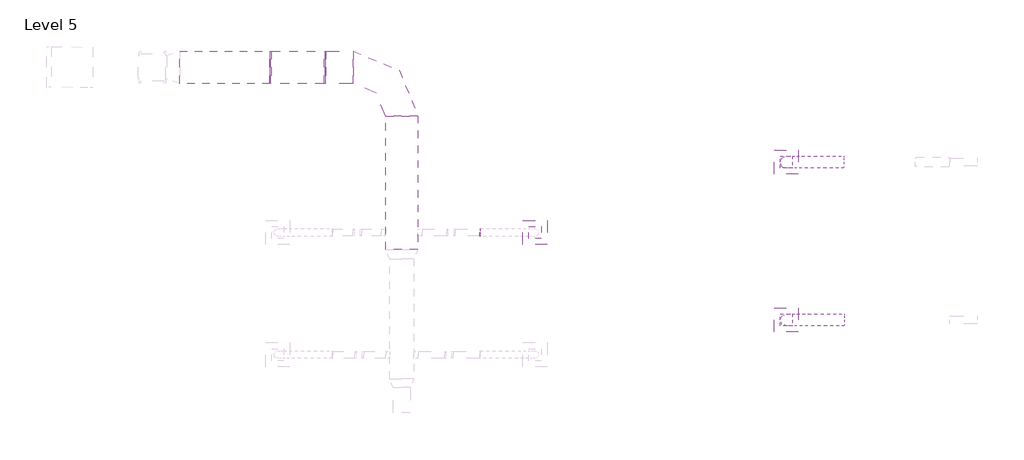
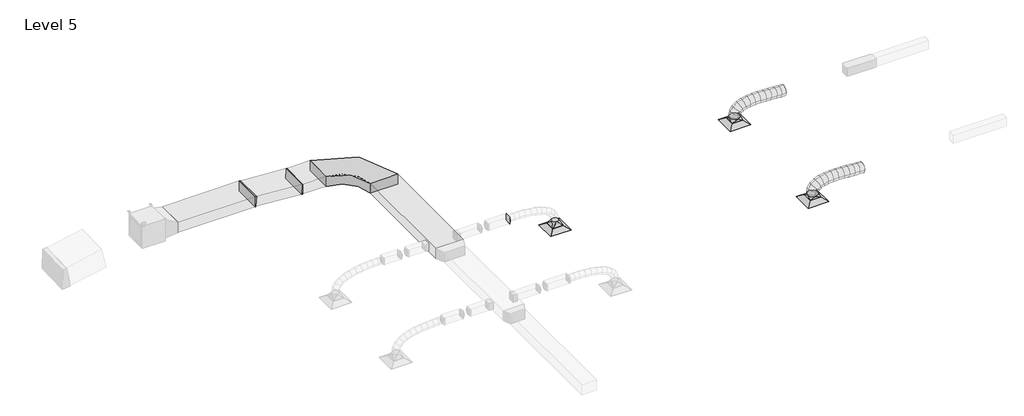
# One storey, part 5 of 7: 7 duct fittings, 6 duct segments, 3 air terminals.
"""IFC4 building model written with IfcOpenShell, lengths in millimetres."""

from ifc_helpers import new_model, si_unit, frame, origin, place, context, project, spatial, polyline, circle_curve, ellipse_curve, outline, extrude, transform, mapped, element, save
from ifc_brep_helpers import plane_surface, cylinder_surface, advanced_brep
from components import extract_grille_600_x_600_face_300_x_300_connection_2ef68f4f, supply_diffuser_24_x_24_face_16_x_16_connection_3cd54949, rectangular_elbow_radius_1_5_w_7a37d99a, rectangular_elbow_radius_1_5_w_4e0f4f0b, rectangular_to_round_transition_angle_45_degree_6939472c, rectangular_to_round_transition_angle_45_degree_460bb45a, rectangular_to_round_transition_angle_45_degree_641efff0

model = new_model("IFC4")

# Units and contexts
model_context = context("Model", 3, world=origin())
ifc_project = project(units=[si_unit("LENGTHUNIT", "METRE", prefix="MILLI")], contexts=[model_context])

# Site, building, storey
site = spatial("IfcSite", under=ifc_project)
building = spatial("IfcBuilding", under=site)
storey = spatial("IfcBuildingStorey", under=building, Name="Level 5", Elevation=19507.2)

# Air terminals
placement = place(None, origin())
extract_grille_600_x_600_face_300_x_300_connection_shape = extract_grille_600_x_600_face_300_x_300_connection_2ef68f4f(model_context)
element("IfcAirTerminal", 1, ObjectType="Extract Grille : 600 x 600 Face 300 x 300 Connection", at=placement, inside=storey, context=model_context, shape_type="MappedRepresentation", body=[
    mapped(extract_grille_600_x_600_face_300_x_300_connection_shape, transform((-7599.3643438, 10922.574671, 21507.2), x_axis=(-1.0, 0.0, 0.0), y_axis=(0.0, -1.0, 0.0), z_axis=(0.0, 0.0, 1.0))),
])
supply_diffuser_24_x_24_face_16_x_16_connection_shape = supply_diffuser_24_x_24_face_16_x_16_connection_3cd54949(model_context)
element("IfcAirTerminal", 2, ObjectType="Supply Diffuser : 24 x 24 Face 16 x 16 Connection", at=placement, inside=storey, context=model_context, shape_type="MappedRepresentation", body=[
    mapped(supply_diffuser_24_x_24_face_16_x_16_connection_shape, transform((-1396.0430817, 12661.2215712, 21507.2), x_axis=(-1.0, 0.0, 0.0), y_axis=(0.0, -1.0, 0.0), z_axis=(0.0, 0.0, 1.0))),
])
element("IfcAirTerminal", 3, ObjectType="Supply Diffuser : 24 x 24 Face 16 x 16 Connection", at=placement, inside=storey, context=model_context, shape_type="MappedRepresentation", body=[
    mapped(supply_diffuser_24_x_24_face_16_x_16_connection_shape, transform((-1396.0430817, 8760.722681, 21507.2), x_axis=(-1.0, 0.0, 0.0), y_axis=(0.0, -1.0, 0.0), z_axis=(0.0, 0.0, 1.0))),
])

# Duct fittings
rectangular_elbow_radius_1_5_w_shape = rectangular_elbow_radius_1_5_w_7a37d99a(model_context)
element("IfcDuctFitting", 4, ObjectType="Rectangular Elbow - Radius : 1.5 W", at=placement, inside=storey, context=model_context, shape_type="MappedRepresentation", body=[
    mapped(rectangular_elbow_radius_1_5_w_shape, transform((-10888.399049, 15002.6239015, 22250.4), x_axis=(0.0, 1.0, 0.0), y_axis=(-1.0, 0.0, 0.0), z_axis=(0.0, 0.0, 1.0))),
])
rectangular_elbow_radius_1_5_w_2_shape = rectangular_elbow_radius_1_5_w_4e0f4f0b(model_context)
element("IfcDuctFitting", 5, ObjectType="Rectangular Elbow - Radius : 1.5 W", at=placement, inside=storey, context=model_context, shape_type="MappedRepresentation", body=[
    mapped(rectangular_elbow_radius_1_5_w_2_shape, transform((-12781.1750622, 15002.6239015, 22250.4), x_axis=(-1.0, 0.0, 0.0), y_axis=(0.0, 0.0, 1.0), z_axis=(0.0, 1.0, 0.0))),
])
element("IfcDuctFitting", 6, ObjectType="Rectangular Elbow - Radius : 1.5 W", at=placement, inside=storey, context=model_context, shape_type="MappedRepresentation", body=[
    mapped(rectangular_elbow_radius_1_5_w_2_shape, transform((-14131.1748006, 15002.6239015, 22343.8), x_axis=(-0.9976152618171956, 0.0, 0.06902021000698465), y_axis=(-0.06902021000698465, 0.0, -0.9976152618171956), z_axis=(0.0, -1.0, 0.0))),
])
rectangular_to_round_transition_angle_45_degree_shape = rectangular_to_round_transition_angle_45_degree_6939472c(model_context)
element("IfcDuctFitting", 7, ObjectType="Rectangular to Round Transition - Angle : 45 Degree", at=placement, inside=storey, context=model_context, shape_type="MappedRepresentation", body=[
    mapped(rectangular_to_round_transition_angle_45_degree_shape, transform((-7599.3643438, 10922.574671, 21607.2), x_axis=(0.0, 0.0, 1.0), y_axis=(-1.0, 0.0, 0.0), z_axis=(0.0, -1.0, 0.0))),
])
rectangular_to_round_transition_angle_45_degree_2_shape = rectangular_to_round_transition_angle_45_degree_460bb45a(model_context)
element("IfcDuctFitting", 8, ObjectType="Rectangular to Round Transition - Angle : 45 Degree", at=placement, inside=storey, context=model_context, shape_type="MappedRepresentation", body=[
    mapped(rectangular_to_round_transition_angle_45_degree_2_shape, transform((-8963.51205, 10922.574671, 22250.4), x_axis=(1.0, 0.0, 0.0), y_axis=(0.0, 1.0, 0.0), z_axis=(0.0, 0.0, 1.0))),
])
rectangular_to_round_transition_angle_45_degree_3_shape = rectangular_to_round_transition_angle_45_degree_641efff0(model_context)
element("IfcDuctFitting", 9, ObjectType="Rectangular to Round Transition - Angle : 45 Degree", at=placement, inside=storey, context=model_context, shape_type="MappedRepresentation", body=[
    mapped(rectangular_to_round_transition_angle_45_degree_3_shape, transform((-1396.0430817, 8760.722681, 21608.8), x_axis=(0.0, 0.0, 1.0), y_axis=(-1.0, 0.0, 0.0), z_axis=(0.0, -1.0, 0.0))),
])
element("IfcDuctFitting", 10, ObjectType="Rectangular to Round Transition - Angle : 45 Degree", at=placement, inside=storey, context=model_context, shape_type="MappedRepresentation", body=[
    mapped(rectangular_to_round_transition_angle_45_degree_3_shape, transform((-1396.0430817, 12661.2215712, 21608.8), x_axis=(0.0, 0.0, 1.0), y_axis=(-1.0, 0.0, 0.0), z_axis=(0.0, -1.0, 0.0))),
])

# Duct segments
element("IfcDuctSegment", 11, ObjectType="Flex - Round", at=placement, inside=storey, context=model_context, shape_type="AdvancedBrep", body=[
    advanced_brep(
    [(-1246.0430817, 8760.722681, 21683.8), (-1396.0430817, 8610.722681, 21683.8), (-1546.0430817, 8760.722681, 21683.8), (-1396.0430817, 8910.722681, 21683.8), (-1246.0430817, 8760.722681, 21692.6365588), (-1396.0430817, 8610.722681, 21709.5376656), (-1546.0430817, 8760.722681, 21726.4387725), (-1396.0430817, 8910.722681, 21709.5376656), (-1236.7198679, 8760.722681, 21733.4838165), (-1377.1233228, 8610.722681, 21792.4297111), (-1517.5267778, 8760.722681, 21851.3756057), (-1377.1233228, 8910.722681, 21792.4297111), (-1212.3989623, 8760.722681, 21771.3803227), (-1323.6170991, 8610.722681, 21875.8023854), (-1434.835236, 8760.722681, 21980.224448), (-1323.6170991, 8910.722681, 21875.8023854), (-1167.6260807, 8760.722681, 21804.271018), (-1240.4039903, 8610.722681, 21936.9317322), (-1313.1818999, 8760.722681, 22069.5924464), (-1240.4039903, 8910.722681, 21936.9317322), (-1090.1780726, 8760.722681, 21834.3065428), (-1132.363576, 8610.722681, 21978.8314611), (-1174.5490794, 8760.722681, 22123.3563793), (-1132.363576, 8910.722681, 21978.8314611), (-983.034465, 8760.722681, 21855.8074191), (-1004.3754358, 8610.722681, 22004.5152814), (-1025.7164065, 8760.722681, 22153.2231437), (-1004.3754358, 8910.722681, 22004.5152814), (-853.6680936, 8760.722681, 21867.0945991), (-861.3191493, 8610.722681, 22016.9969027), (-868.970205, 8760.722681, 22166.8992063), (-861.3191493, 8910.722681, 22016.9969027), (-709.2608045, 8760.722681, 21869.2554868), (-708.0742963, 8610.722681, 22019.2900344), (-706.887788, 8760.722681, 22169.3245819), (-708.0742963, 8910.722681, 22019.2900344), (-556.088619, 8760.722681, 21864.5395319), (-549.5204562, 8610.722681, 22014.4083859), (-542.9522934, 8760.722681, 22164.2772399), (-549.5204562, 8910.722681, 22014.4083859), (-399.7312604, 8760.722681, 21855.6461692), (-390.5372088, 8610.722681, 22005.3656667), (-381.3431572, 8760.722681, 22155.0851642), (-390.5372088, 8910.722681, 22005.3656667), (-245.2314719, 8760.722681, 21845.4582837), (-236.0041337, 8610.722681, 21995.1755863), (-226.7767954, 8760.722681, 22144.8928889), (-236.0041337, 8910.722681, 21995.1755863), (-97.1266751, 8760.722681, 21836.9682255), (-90.8008104, 8610.722681, 21986.8518541), (-84.4749457, 8760.722681, 22136.7354826), (-90.8008104, 8910.722681, 21986.8518541), (34.2181612, 8760.722681, 21833.4081343), (36.2500902, 8610.722681, 21983.4081497), (38.2820191, 8760.722681, 22133.4081651), (36.2500902, 8910.722681, 21983.4081497), (40.194315, 8760.722681, 21833.4081795), (40.1931813, 8610.722681, 21983.4081795), (40.1920475, 8760.722681, 22133.4081795), (40.1931813, 8910.722681, 21983.4081795)],
    [
        (0, 1, circle_curve(frame((-1396.0430817, 8760.722681, 21683.8), z_axis=(0.0, 0.0, -1.0), x_axis=(1.0, 0.0, 0.0)), 150.0)),
        (1, 2, circle_curve(frame((-1396.0430817, 8760.722681, 21683.8), z_axis=(0.0, 0.0, -1.0), x_axis=(1.0, 0.0, 0.0)), 150.0)),
        (2, 3, circle_curve(frame((-1396.0430817, 8760.722681, 21683.8), z_axis=(0.0, 0.0, -1.0), x_axis=(1.0, 0.0, 0.0)), 150.0)),
        (3, 0, circle_curve(frame((-1396.0430817, 8760.722681, 21683.8), z_axis=(0.0, 0.0, -1.0), x_axis=(1.0, 0.0, 0.0)), 150.0)),
        (0, 4),
        (4, 5, ellipse_curve(frame((-1396.0430817, 8760.722681, 21709.5376656), z_axis=(-0.11196556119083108, 0.0, -0.9937120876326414), x_axis=(0.9937120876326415, 0.0, -0.11196556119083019)), 150.9491551, 150.0)),
        (5, 1),
        (5, 6, ellipse_curve(frame((-1396.0430817, 8760.722681, 21709.5376656), z_axis=(-0.11196556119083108, 0.0, -0.9937120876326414), x_axis=(0.9937120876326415, 0.0, -0.11196556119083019)), 150.9491551, 150.0)),
        (6, 2),
        (6, 7, ellipse_curve(frame((-1396.0430817, 8760.722681, 21709.5376656), z_axis=(-0.11196556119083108, 0.0, -0.9937120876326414), x_axis=(0.9937120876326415, 0.0, -0.11196556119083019)), 150.9491551, 150.0)),
        (7, 3),
        (7, 4, ellipse_curve(frame((-1396.0430817, 8760.722681, 21709.5376656), z_axis=(-0.11196556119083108, 0.0, -0.9937120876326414), x_axis=(0.9937120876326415, 0.0, -0.11196556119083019)), 150.9491551, 150.0)),
        (4, 8),
        (8, 9, ellipse_curve(frame((-1377.1233228, 8760.722681, 21792.4297111), z_axis=(-0.38710098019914, 0.0, -0.92203732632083), x_axis=(0.9220373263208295, 0.0, -0.3871009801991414)), 152.2752398, 150.0)),
        (9, 5),
        (9, 10, ellipse_curve(frame((-1377.1233228, 8760.722681, 21792.4297111), z_axis=(-0.38710098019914, 0.0, -0.92203732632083), x_axis=(0.9220373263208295, 0.0, -0.3871009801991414)), 152.2752398, 150.0)),
        (10, 6),
        (10, 11, ellipse_curve(frame((-1377.1233228, 8760.722681, 21792.4297111), z_axis=(-0.38710098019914, 0.0, -0.92203732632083), x_axis=(0.9220373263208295, 0.0, -0.3871009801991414)), 152.2752398, 150.0)),
        (11, 7),
        (11, 8, ellipse_curve(frame((-1377.1233228, 8760.722681, 21792.4297111), z_axis=(-0.38710098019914, 0.0, -0.92203732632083), x_axis=(0.9220373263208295, 0.0, -0.3871009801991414)), 152.2752398, 150.0)),
        (8, 12),
        (12, 13, ellipse_curve(frame((-1323.6170991, 8760.722681, 21875.8023854), z_axis=(-0.6844818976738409, 0.0, -0.7290298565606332), x_axis=(0.7290298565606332, 0.0, -0.684481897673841)), 152.5563539, 150.0)),
        (13, 9),
        (13, 14, ellipse_curve(frame((-1323.6170991, 8760.722681, 21875.8023854), z_axis=(-0.6844818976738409, 0.0, -0.7290298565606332), x_axis=(0.7290298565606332, 0.0, -0.684481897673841)), 152.5563539, 150.0)),
        (14, 10),
        (14, 15, ellipse_curve(frame((-1323.6170991, 8760.722681, 21875.8023854), z_axis=(-0.6844818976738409, 0.0, -0.7290298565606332), x_axis=(0.7290298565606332, 0.0, -0.684481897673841)), 152.5563539, 150.0)),
        (15, 11),
        (15, 12, ellipse_curve(frame((-1323.6170991, 8760.722681, 21875.8023854), z_axis=(-0.6844818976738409, 0.0, -0.7290298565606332), x_axis=(0.7290298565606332, 0.0, -0.684481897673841)), 152.5563539, 150.0)),
        (12, 16),
        (16, 17, ellipse_curve(frame((-1240.4039903, 8760.722681, 21936.9317322), z_axis=(-0.8767330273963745, 0.0, -0.48097733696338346), x_axis=(0.4809773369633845, 0.0, -0.8767330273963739)), 151.3125547, 150.0)),
        (17, 13),
        (17, 18, ellipse_curve(frame((-1240.4039903, 8760.722681, 21936.9317322), z_axis=(-0.8767330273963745, 0.0, -0.48097733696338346), x_axis=(0.4809773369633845, 0.0, -0.8767330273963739)), 151.3125547, 150.0)),
        (18, 14),
        (18, 19, ellipse_curve(frame((-1240.4039903, 8760.722681, 21936.9317322), z_axis=(-0.8767330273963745, 0.0, -0.48097733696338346), x_axis=(0.4809773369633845, 0.0, -0.8767330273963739)), 151.3125547, 150.0)),
        (19, 15),
        (19, 16, ellipse_curve(frame((-1240.4039903, 8760.722681, 21936.9317322), z_axis=(-0.8767330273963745, 0.0, -0.48097733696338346), x_axis=(0.4809773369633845, 0.0, -0.8767330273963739)), 151.3125547, 150.0)),
        (16, 20),
        (20, 21, ellipse_curve(frame((-1132.363576, 8760.722681, 21978.8314611), z_axis=(-0.9599421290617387, 0.0, -0.28019833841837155), x_axis=(0.2801983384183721, 0.0, -0.9599421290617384)), 150.5558657, 150.0)),
        (21, 17),
        (21, 22, ellipse_curve(frame((-1132.363576, 8760.722681, 21978.8314611), z_axis=(-0.9599421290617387, 0.0, -0.28019833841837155), x_axis=(0.2801983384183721, 0.0, -0.9599421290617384)), 150.5558657, 150.0)),
        (22, 18),
        (22, 23, ellipse_curve(frame((-1132.363576, 8760.722681, 21978.8314611), z_axis=(-0.9599421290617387, 0.0, -0.28019833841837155), x_axis=(0.2801983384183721, 0.0, -0.9599421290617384)), 150.5558657, 150.0)),
        (23, 19),
        (23, 20, ellipse_curve(frame((-1132.363576, 8760.722681, 21978.8314611), z_axis=(-0.9599421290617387, 0.0, -0.28019833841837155), x_axis=(0.2801983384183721, 0.0, -0.9599421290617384)), 150.5558657, 150.0)),
        (20, 24),
        (24, 25, ellipse_curve(frame((-1004.3754358, 8760.722681, 22004.5152814), z_axis=(-0.9898589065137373, 0.0, -0.14205402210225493), x_axis=(0.1420540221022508, 0.0, -0.9898589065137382)), 150.2313727, 150.0)),
        (25, 21),
        (25, 26, ellipse_curve(frame((-1004.3754358, 8760.722681, 22004.5152814), z_axis=(-0.9898589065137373, 0.0, -0.14205402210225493), x_axis=(0.1420540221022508, 0.0, -0.9898589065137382)), 150.2313727, 150.0)),
        (26, 22),
        (26, 27, ellipse_curve(frame((-1004.3754358, 8760.722681, 22004.5152814), z_axis=(-0.9898589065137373, 0.0, -0.14205402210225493), x_axis=(0.1420540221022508, 0.0, -0.9898589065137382)), 150.2313727, 150.0)),
        (27, 23),
        (27, 24, ellipse_curve(frame((-1004.3754358, 8760.722681, 22004.5152814), z_axis=(-0.9898589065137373, 0.0, -0.14205402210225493), x_axis=(0.1420540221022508, 0.0, -0.9898589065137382)), 150.2313727, 150.0)),
        (24, 28),
        (28, 29, ellipse_curve(frame((-861.3191493, 8760.722681, 22016.9969027), z_axis=(-0.9986999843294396, 0.0, -0.050973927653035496), x_axis=(0.0509739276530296, 0.0, -0.99869998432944)), 150.0974326, 150.0)),
        (29, 25),
        (29, 30, ellipse_curve(frame((-861.3191493, 8760.722681, 22016.9969027), z_axis=(-0.9986999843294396, 0.0, -0.050973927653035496), x_axis=(0.0509739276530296, 0.0, -0.99869998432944)), 150.0974326, 150.0)),
        (30, 26),
        (30, 31, ellipse_curve(frame((-861.3191493, 8760.722681, 22016.9969027), z_axis=(-0.9986999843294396, 0.0, -0.050973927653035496), x_axis=(0.0509739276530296, 0.0, -0.99869998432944)), 150.0974326, 150.0)),
        (31, 27),
        (31, 28, ellipse_curve(frame((-861.3191493, 8760.722681, 22016.9969027), z_axis=(-0.9986999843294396, 0.0, -0.050973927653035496), x_axis=(0.0509739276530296, 0.0, -0.99869998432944)), 150.0974326, 150.0)),
        (28, 32),
        (32, 33, ellipse_curve(frame((-708.0742963, 8760.722681, 22019.2900344), z_axis=(-0.9999687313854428, 0.0, 0.007907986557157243), x_axis=(-0.007907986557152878, 0.0, -0.9999687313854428)), 150.039239, 150.0)),
        (33, 29),
        (33, 34, ellipse_curve(frame((-708.0742963, 8760.722681, 22019.2900344), z_axis=(-0.9999687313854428, 0.0, 0.007907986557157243), x_axis=(-0.007907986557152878, 0.0, -0.9999687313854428)), 150.039239, 150.0)),
        (34, 30),
        (34, 35, ellipse_curve(frame((-708.0742963, 8760.722681, 22019.2900344), z_axis=(-0.9999687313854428, 0.0, 0.007907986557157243), x_axis=(-0.007907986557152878, 0.0, -0.9999687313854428)), 150.039239, 150.0)),
        (35, 31),
        (35, 32, ellipse_curve(frame((-708.0742963, 8760.722681, 22019.2900344), z_axis=(-0.9999687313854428, 0.0, 0.007907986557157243), x_axis=(-0.007907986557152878, 0.0, -0.9999687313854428)), 150.039239, 150.0)),
        (32, 36),
        (36, 37, ellipse_curve(frame((-549.5204562, 8760.722681, 22014.4083859), z_axis=(-0.9990410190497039, 0.0, 0.04378404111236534), x_axis=(-0.04378404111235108, 0.0, -0.9990410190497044)), 150.0127133, 150.0)),
        (37, 33),
        (37, 38, ellipse_curve(frame((-549.5204562, 8760.722681, 22014.4083859), z_axis=(-0.9990410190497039, 0.0, 0.04378404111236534), x_axis=(-0.04378404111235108, 0.0, -0.9990410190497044)), 150.0127133, 150.0)),
        (38, 34),
        (38, 39, ellipse_curve(frame((-549.5204562, 8760.722681, 22014.4083859), z_axis=(-0.9990410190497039, 0.0, 0.04378404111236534), x_axis=(-0.04378404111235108, 0.0, -0.9990410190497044)), 150.0127133, 150.0)),
        (39, 35),
        (39, 36, ellipse_curve(frame((-549.5204562, 8760.722681, 22014.4083859), z_axis=(-0.9990410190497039, 0.0, 0.04378404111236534), x_axis=(-0.04378404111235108, 0.0, -0.9990410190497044)), 150.0127133, 150.0)),
        (36, 40),
        (40, 41, ellipse_curve(frame((-390.5372088, 8760.722681, 22005.3656667), z_axis=(-0.9981198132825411, 0.0, 0.061293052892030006), x_axis=(-0.06129305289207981, 0.0, -0.9981198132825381)), 150.0015284, 150.0)),
        (41, 37),
        (41, 42, ellipse_curve(frame((-390.5372088, 8760.722681, 22005.3656667), z_axis=(-0.9981198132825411, 0.0, 0.061293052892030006), x_axis=(-0.06129305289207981, 0.0, -0.9981198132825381)), 150.0015284, 150.0)),
        (42, 38),
        (42, 43, ellipse_curve(frame((-390.5372088, 8760.722681, 22005.3656667), z_axis=(-0.9981198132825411, 0.0, 0.061293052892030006), x_axis=(-0.06129305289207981, 0.0, -0.9981198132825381)), 150.0015284, 150.0)),
        (43, 39),
        (43, 40, ellipse_curve(frame((-390.5372088, 8760.722681, 22005.3656667), z_axis=(-0.9981198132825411, 0.0, 0.061293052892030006), x_axis=(-0.06129305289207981, 0.0, -0.9981198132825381)), 150.0015284, 150.0)),
        (40, 44),
        (44, 45, ellipse_curve(frame((-236.0041337, 8760.722681, 21995.1755863), z_axis=(-0.998106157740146, 0.0, 0.061515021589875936), x_axis=(0.061515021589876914, 0.0, 0.9981061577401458)), 150.0013815, 150.0)),
        (45, 41),
        (45, 46, ellipse_curve(frame((-236.0041337, 8760.722681, 21995.1755863), z_axis=(-0.998106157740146, 0.0, 0.061515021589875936), x_axis=(0.061515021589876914, 0.0, 0.9981061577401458)), 150.0013815, 150.0)),
        (46, 42),
        (46, 47, ellipse_curve(frame((-236.0041337, 8760.722681, 21995.1755863), z_axis=(-0.998106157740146, 0.0, 0.061515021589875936), x_axis=(0.061515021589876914, 0.0, 0.9981061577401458)), 150.0013815, 150.0)),
        (47, 43),
        (47, 44, ellipse_curve(frame((-236.0041337, 8760.722681, 21995.1755863), z_axis=(-0.998106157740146, 0.0, 0.061515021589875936), x_axis=(0.061515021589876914, 0.0, 0.9981061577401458)), 150.0013815, 150.0)),
        (44, 48),
        (48, 49, ellipse_curve(frame((-90.8008104, 8760.722681, 21986.8518541), z_axis=(-0.9991105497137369, 0.0, 0.04216763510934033), x_axis=(0.042167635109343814, 0.0, 0.9991105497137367)), 150.0170613, 150.0)),
        (49, 45),
        (49, 50, ellipse_curve(frame((-90.8008104, 8760.722681, 21986.8518541), z_axis=(-0.9991105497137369, 0.0, 0.04216763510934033), x_axis=(0.042167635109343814, 0.0, 0.9991105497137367)), 150.0170613, 150.0)),
        (50, 46),
        (50, 51, ellipse_curve(frame((-90.8008104, 8760.722681, 21986.8518541), z_axis=(-0.9991105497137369, 0.0, 0.04216763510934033), x_axis=(0.042167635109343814, 0.0, 0.9991105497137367)), 150.0170613, 150.0)),
        (51, 47),
        (51, 48, ellipse_curve(frame((-90.8008104, 8760.722681, 21986.8518541), z_axis=(-0.9991105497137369, 0.0, 0.04216763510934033), x_axis=(0.042167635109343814, 0.0, 0.9991105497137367)), 150.0170613, 150.0)),
        (48, 52),
        (52, 53, ellipse_curve(frame((36.2500902, 8760.722681, 21983.4081497), z_axis=(-0.9999082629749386, 0.0, 0.013544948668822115), x_axis=(0.013544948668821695, 0.0, 0.9999082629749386)), 150.0137772, 150.0)),
        (53, 49),
        (53, 54, ellipse_curve(frame((36.2500902, 8760.722681, 21983.4081497), z_axis=(-0.9999082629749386, 0.0, 0.013544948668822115), x_axis=(0.013544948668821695, 0.0, 0.9999082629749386)), 150.0137772, 150.0)),
        (54, 50),
        (54, 55, ellipse_curve(frame((36.2500902, 8760.722681, 21983.4081497), z_axis=(-0.9999082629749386, 0.0, 0.013544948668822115), x_axis=(0.013544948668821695, 0.0, 0.9999082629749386)), 150.0137772, 150.0)),
        (55, 51),
        (55, 52, ellipse_curve(frame((36.2500902, 8760.722681, 21983.4081497), z_axis=(-0.9999082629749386, 0.0, 0.013544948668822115), x_axis=(0.013544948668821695, 0.0, 0.9999082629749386)), 150.0137772, 150.0)),
        (52, 56),
        (56, 57, circle_curve(frame((40.1931813, 8760.722681, 21983.4081795), z_axis=(-0.9999999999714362, 0.0, -7.558282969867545e-06), x_axis=(7.558282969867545e-06, 0.0, -0.9999999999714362)), 150.0)),
        (57, 53),
        (57, 58, circle_curve(frame((40.1931813, 8760.722681, 21983.4081795), z_axis=(-0.9999999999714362, 0.0, -7.558282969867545e-06), x_axis=(7.558282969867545e-06, 0.0, -0.9999999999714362)), 150.0)),
        (58, 54),
        (58, 59, circle_curve(frame((40.1931813, 8760.722681, 21983.4081795), z_axis=(-0.9999999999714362, 0.0, -7.558282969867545e-06), x_axis=(7.558282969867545e-06, 0.0, -0.9999999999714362)), 150.0)),
        (59, 55),
        (59, 56, circle_curve(frame((40.1931813, 8760.722681, 21983.4081795), z_axis=(-0.9999999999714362, 0.0, -7.558282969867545e-06), x_axis=(7.558282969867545e-06, 0.0, -0.9999999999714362)), 150.0)),
    ],
    [
        plane_surface(frame((-1396.0430817, 8610.722681, 21683.8), z_axis=(0.0, 0.0, -1.0), x_axis=(1.0, 0.0, 0.0))),
        cylinder_surface(frame((-1396.0430817, 8760.722681, 21683.8), z_axis=(0.0, 0.0, -1.0), x_axis=(1.0, 0.0, 0.0)), 150.0),
        cylinder_surface(frame((-1396.0430817, 8760.722681, 21709.5376656), z_axis=(-0.22252306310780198, 0.0, -0.9749274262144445), x_axis=(0.9749274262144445, 0.0, -0.22252306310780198)), 150.0),
        cylinder_surface(frame((-1377.1233228, 8760.722681, 21792.4297111), z_axis=(-0.5401110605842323, 0.0, -0.8415937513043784), x_axis=(0.8415937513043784, 0.0, -0.5401110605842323)), 150.0),
        cylinder_surface(frame((-1323.6170991, 8760.722681, 21875.8023854), z_axis=(-0.8059133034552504, 0.0, -0.5920335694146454), x_axis=(0.5920335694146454, 0.0, -0.8059133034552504)), 150.0),
        cylinder_surface(frame((-1240.4039903, 8760.722681, 21936.9317322), z_axis=(-0.9323423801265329, 0.0, -0.36157666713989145), x_axis=(0.36157666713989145, 0.0, -0.9323423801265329)), 150.0),
        cylinder_surface(frame((-1132.363576, 8760.722681, 21978.8314611), z_axis=(-0.9804534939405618, 0.0, -0.1967509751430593), x_axis=(0.1967509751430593, 0.0, -0.9804534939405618)), 150.0),
        cylinder_surface(frame((-1004.3754358, 8760.722681, 22004.5152814), z_axis=(-0.9962153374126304, 0.0, -0.0869195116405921), x_axis=(0.0869195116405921, 0.0, -0.9962153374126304)), 150.0),
        cylinder_surface(frame((-861.3191493, 8760.722681, 22016.9969027), z_axis=(-0.9998880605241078, 0.0, -0.014962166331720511), x_axis=(0.014962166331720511, 0.0, -0.9998880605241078)), 150.0),
        cylinder_surface(frame((-708.0742963, 8760.722681, 22019.2900344), z_axis=(-0.9995263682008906, 0.0, 0.030774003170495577), x_axis=(-0.030774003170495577, 0.0, -0.9995263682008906)), 150.0),
        cylinder_surface(frame((-549.5204562, 8760.722681, 22014.4083859), z_axis=(-0.9983863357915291, 0.0, 0.05678665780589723), x_axis=(-0.05678665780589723, 0.0, -0.9983863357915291)), 150.0),
        cylinder_surface(frame((-390.5372088, 8760.722681, 22005.3656667), z_axis=(-0.9978329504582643, 0.0, 0.06579819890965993), x_axis=(-0.06579819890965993, 0.0, -0.9978329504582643)), 150.0),
        cylinder_surface(frame((-236.0041337, 8760.722681, 21995.1755863), z_axis=(-0.9983609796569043, 0.0, 0.057230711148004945), x_axis=(-0.057230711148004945, 0.0, -0.9983609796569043)), 150.0),
        cylinder_surface(frame((-90.8008104, 8760.722681, 21986.8518541), z_axis=(-0.9996328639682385, 0.0, 0.027094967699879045), x_axis=(-0.027094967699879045, 0.0, -0.9996328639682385)), 150.0),
        cylinder_surface(frame((36.2500902, 8760.722681, 21983.4081497), z_axis=(-0.9999999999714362, 0.0, -7.558282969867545e-06), x_axis=(7.558282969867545e-06, 0.0, -0.9999999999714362)), 150.0),
        plane_surface(frame((40.194315, 8760.722681, 21833.4081795), z_axis=(0.9999999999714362, 0.0, 7.558282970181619e-06), x_axis=(0.0, 1.0, 0.0))),
    ],
    [
        (0, [[1, 2, 3, 4]]),
        (1, [[-1, 5, 6, 7]]),
        (1, [[-2, -7, 8, 9]]),
        (1, [[-3, -9, 10, 11]]),
        (1, [[-4, -11, 12, -5]]),
        (2, [[-6, 13, 14, 15]]),
        (2, [[-8, -15, 16, 17]]),
        (2, [[-10, -17, 18, 19]]),
        (2, [[-12, -19, 20, -13]]),
        (3, [[-14, 21, 22, 23]]),
        (3, [[-16, -23, 24, 25]]),
        (3, [[-18, -25, 26, 27]]),
        (3, [[-20, -27, 28, -21]]),
        (4, [[-22, 29, 30, 31]]),
        (4, [[-24, -31, 32, 33]]),
        (4, [[-26, -33, 34, 35]]),
        (4, [[-28, -35, 36, -29]]),
        (5, [[-30, 37, 38, 39]]),
        (5, [[-32, -39, 40, 41]]),
        (5, [[-34, -41, 42, 43]]),
        (5, [[-36, -43, 44, -37]]),
        (6, [[-38, 45, 46, 47]]),
        (6, [[-40, -47, 48, 49]]),
        (6, [[-42, -49, 50, 51]]),
        (6, [[-44, -51, 52, -45]]),
        (7, [[-46, 53, 54, 55]]),
        (7, [[-48, -55, 56, 57]]),
        (7, [[-50, -57, 58, 59]]),
        (7, [[-52, -59, 60, -53]]),
        (8, [[-54, 61, 62, 63]]),
        (8, [[-56, -63, 64, 65]]),
        (8, [[-58, -65, 66, 67]]),
        (8, [[-60, -67, 68, -61]]),
        (9, [[-62, 69, 70, 71]]),
        (9, [[-64, -71, 72, 73]]),
        (9, [[-66, -73, 74, 75]]),
        (9, [[-68, -75, 76, -69]]),
        (10, [[-70, 77, 78, 79]]),
        (10, [[-72, -79, 80, 81]]),
        (10, [[-74, -81, 82, 83]]),
        (10, [[-76, -83, 84, -77]]),
        (11, [[-78, 85, 86, 87]]),
        (11, [[-80, -87, 88, 89]]),
        (11, [[-82, -89, 90, 91]]),
        (11, [[-84, -91, 92, -85]]),
        (12, [[-86, 93, 94, 95]]),
        (12, [[-88, -95, 96, 97]]),
        (12, [[-90, -97, 98, 99]]),
        (12, [[-92, -99, 100, -93]]),
        (13, [[-94, 101, 102, 103]]),
        (13, [[-96, -103, 104, 105]]),
        (13, [[-98, -105, 106, 107]]),
        (13, [[-100, -107, 108, -101]]),
        (14, [[-102, 109, 110, 111]]),
        (14, [[-104, -111, 112, 113]]),
        (14, [[-106, -113, 114, 115]]),
        (14, [[-108, -115, 116, -109]]),
        (15, [[-116, -114, -112, -110]]),
    ],
),
])
element("IfcDuctSegment", 12, ObjectType="Flex - Round", at=placement, inside=storey, context=model_context, shape_type="AdvancedBrep", body=[
    advanced_brep(
    [(-1246.0430817, 12661.2215712, 21683.8), (-1396.0430817, 12511.2215712, 21683.8), (-1546.0430817, 12661.2215712, 21683.8), (-1396.0430817, 12811.2215712, 21683.8), (-1246.0430817, 12661.2215712, 21692.5846716), (-1396.0430817, 12511.2215712, 21709.5081742), (-1546.0430817, 12661.2215712, 21726.4316768), (-1396.0430817, 12811.2215712, 21709.5081742), (-1236.9090832, 12661.2215712, 21732.54861), (-1377.3202529, 12511.2215712, 21791.4260741), (-1517.7314227, 12661.2215712, 21850.3035383), (-1377.3202529, 12811.2215712, 21791.4260741), (-1212.9878302, 12661.2215712, 21769.9179146), (-1324.3701937, 12511.2215712, 21874.1436011), (-1435.7525572, 12661.2215712, 21978.3692875), (-1324.3701937, 12811.2215712, 21874.1436011), (-1168.9241482, 12661.2215712, 21802.4363013), (-1242.0205448, 12511.2215712, 21934.9165008), (-1315.1169413, 12661.2215712, 22067.3967004), (-1242.0205448, 12811.2215712, 21934.9165008), (-1092.5265325, 12661.2215712, 21832.2976569), (-1135.0989468, 12511.2215712, 21976.7086933), (-1177.6713612, 12661.2215712, 22121.1197296), (-1135.0989468, 12811.2215712, 21976.7086933), (-986.698242, 12661.2215712, 21853.8327893), (-1008.4330407, 12511.2215712, 22002.4840983), (-1030.1678394, 12661.2215712, 22151.1354074), (-1008.4330407, 12811.2215712, 22002.4840983), (-858.8254952, 12661.2215712, 21865.3233688), (-866.8504671, 12511.2215712, 22015.2066359), (-874.8754389, 12661.2215712, 22165.089903), (-866.8504671, 12811.2215712, 22015.2066359), (-716.0228553, 12661.2215712, 21867.8029603), (-715.1788667, 12511.2215712, 22017.840226), (-714.3348781, 12661.2215712, 22167.8774916), (-715.1788667, 12811.2215712, 22017.840226), (-564.5101233, 12661.2215712, 21863.466651), (-558.2458803, 12511.2215712, 22013.3487884), (-551.9816373, 12661.2215712, 22163.2309258), (-558.2458803, 12811.2215712, 22013.3487884), (-409.8160528, 12661.2215712, 21854.9610575), (-400.8791486, 12511.2215712, 22004.6962431), (-391.9422444, 12661.2215712, 22154.4314288), (-400.8791486, 12811.2215712, 22004.6962431), (-256.9361687, 12661.2215712, 21845.1173095), (-247.9063125, 12511.2215712, 21994.8465101), (-238.8764562, 12661.2215712, 22144.5757106), (-247.9063125, 12811.2215712, 21994.8465101), (-110.3644213, 12661.2215712, 21836.8757174), (-104.1550125, 12511.2215712, 21986.7635091), (-97.9456036, 12661.2215712, 22136.6513008), (-104.1550125, 12811.2215712, 21986.7635091), (19.6729574, 12661.2215712, 21833.4111141), (21.6702493, 12511.2215712, 21983.4111298), (23.6675412, 12661.2215712, 22133.4111455), (21.6702493, 12811.2215712, 21983.4111298), (25.5482882, 12661.2215712, 21833.4111602), (25.5471106, 12511.2215712, 21983.4111602), (25.545933, 12661.2215712, 22133.4111602), (25.5471106, 12811.2215712, 21983.4111602)],
    [
        (0, 1, circle_curve(frame((-1396.0430817, 12661.2215712, 21683.8), z_axis=(0.0, 0.0, -1.0), x_axis=(1.0, 0.0, 0.0)), 150.0)),
        (1, 2, circle_curve(frame((-1396.0430817, 12661.2215712, 21683.8), z_axis=(0.0, 0.0, -1.0), x_axis=(1.0, 0.0, 0.0)), 150.0)),
        (2, 3, circle_curve(frame((-1396.0430817, 12661.2215712, 21683.8), z_axis=(0.0, 0.0, -1.0), x_axis=(1.0, 0.0, 0.0)), 150.0)),
        (3, 0, circle_curve(frame((-1396.0430817, 12661.2215712, 21683.8), z_axis=(0.0, 0.0, -1.0), x_axis=(1.0, 0.0, 0.0)), 150.0)),
        (0, 4),
        (4, 5, ellipse_curve(frame((-1396.0430817, 12661.2215712, 21709.5081742), z_axis=(-0.11211206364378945, 0.0, -0.9936955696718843), x_axis=(0.9936955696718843, 0.0, -0.11211206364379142)), 150.9516643, 150.0)),
        (5, 1),
        (5, 6, ellipse_curve(frame((-1396.0430817, 12661.2215712, 21709.5081742), z_axis=(-0.11211206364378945, 0.0, -0.9936955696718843), x_axis=(0.9936955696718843, 0.0, -0.11211206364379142)), 150.9516643, 150.0)),
        (6, 2),
        (6, 7, ellipse_curve(frame((-1396.0430817, 12661.2215712, 21709.5081742), z_axis=(-0.11211206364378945, 0.0, -0.9936955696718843), x_axis=(0.9936955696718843, 0.0, -0.11211206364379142)), 150.9516643, 150.0)),
        (7, 3),
        (7, 4, ellipse_curve(frame((-1396.0430817, 12661.2215712, 21709.5081742), z_axis=(-0.11211206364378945, 0.0, -0.9936955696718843), x_axis=(0.9936955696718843, 0.0, -0.11211206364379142)), 150.9516643, 150.0)),
        (4, 8),
        (8, 9, ellipse_curve(frame((-1377.3202529, 12661.2215712, 21791.4260741), z_axis=(-0.3867007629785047, 0.0, -0.9222052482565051), x_axis=(0.9222052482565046, 0.0, -0.3867007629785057)), 152.2558779, 150.0)),
        (9, 5),
        (9, 10, ellipse_curve(frame((-1377.3202529, 12661.2215712, 21791.4260741), z_axis=(-0.3867007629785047, 0.0, -0.9222052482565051), x_axis=(0.9222052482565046, 0.0, -0.3867007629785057)), 152.2558779, 150.0)),
        (10, 6),
        (10, 11, ellipse_curve(frame((-1377.3202529, 12661.2215712, 21791.4260741), z_axis=(-0.3867007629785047, 0.0, -0.9222052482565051), x_axis=(0.9222052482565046, 0.0, -0.3867007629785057)), 152.2558779, 150.0)),
        (11, 7),
        (11, 8, ellipse_curve(frame((-1377.3202529, 12661.2215712, 21791.4260741), z_axis=(-0.3867007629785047, 0.0, -0.9222052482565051), x_axis=(0.9222052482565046, 0.0, -0.3867007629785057)), 152.2558779, 150.0)),
        (8, 12),
        (12, 13, ellipse_curve(frame((-1324.3701937, 12661.2215712, 21874.1436011), z_axis=(-0.683259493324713, 0.0, -0.7301756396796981), x_axis=(0.7301756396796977, 0.0, -0.6832594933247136)), 152.5418783, 150.0)),
        (13, 9),
        (13, 14, ellipse_curve(frame((-1324.3701937, 12661.2215712, 21874.1436011), z_axis=(-0.683259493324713, 0.0, -0.7301756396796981), x_axis=(0.7301756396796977, 0.0, -0.6832594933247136)), 152.5418783, 150.0)),
        (14, 10),
        (14, 15, ellipse_curve(frame((-1324.3701937, 12661.2215712, 21874.1436011), z_axis=(-0.683259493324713, 0.0, -0.7301756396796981), x_axis=(0.7301756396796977, 0.0, -0.6832594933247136)), 152.5418783, 150.0)),
        (15, 11),
        (15, 12, ellipse_curve(frame((-1324.3701937, 12661.2215712, 21874.1436011), z_axis=(-0.683259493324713, 0.0, -0.7301756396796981), x_axis=(0.7301756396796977, 0.0, -0.6832594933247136)), 152.5418783, 150.0)),
        (12, 16),
        (16, 17, ellipse_curve(frame((-1242.0205448, 12661.2215712, 21934.9165008), z_axis=(-0.8755668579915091, 0.0, -0.48309696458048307), x_axis=(0.4830969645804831, 0.0, -0.8755668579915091)), 151.3079194, 150.0)),
        (17, 13),
        (17, 18, ellipse_curve(frame((-1242.0205448, 12661.2215712, 21934.9165008), z_axis=(-0.8755668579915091, 0.0, -0.48309696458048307), x_axis=(0.4830969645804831, 0.0, -0.8755668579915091)), 151.3079194, 150.0)),
        (18, 14),
        (18, 19, ellipse_curve(frame((-1242.0205448, 12661.2215712, 21934.9165008), z_axis=(-0.8755668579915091, 0.0, -0.48309696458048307), x_axis=(0.4830969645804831, 0.0, -0.8755668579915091)), 151.3079194, 150.0)),
        (19, 15),
        (19, 16, ellipse_curve(frame((-1242.0205448, 12661.2215712, 21934.9165008), z_axis=(-0.8755668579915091, 0.0, -0.48309696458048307), x_axis=(0.4830969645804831, 0.0, -0.8755668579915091)), 151.3079194, 150.0)),
        (16, 20),
        (20, 21, ellipse_curve(frame((-1135.0989468, 12661.2215712, 21976.7086933), z_axis=(-0.9591880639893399, 0.0, -0.2827689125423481), x_axis=(0.28276891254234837, 0.0, -0.9591880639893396)), 150.5554977, 150.0)),
        (21, 17),
        (21, 22, ellipse_curve(frame((-1135.0989468, 12661.2215712, 21976.7086933), z_axis=(-0.9591880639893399, 0.0, -0.2827689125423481), x_axis=(0.28276891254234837, 0.0, -0.9591880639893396)), 150.5554977, 150.0)),
        (22, 18),
        (22, 23, ellipse_curve(frame((-1135.0989468, 12661.2215712, 21976.7086933), z_axis=(-0.9591880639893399, 0.0, -0.2827689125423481), x_axis=(0.28276891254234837, 0.0, -0.9591880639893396)), 150.5554977, 150.0)),
        (23, 19),
        (23, 20, ellipse_curve(frame((-1135.0989468, 12661.2215712, 21976.7086933), z_axis=(-0.9591880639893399, 0.0, -0.2827689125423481), x_axis=(0.28276891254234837, 0.0, -0.9591880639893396)), 150.5554977, 150.0)),
        (20, 24),
        (24, 25, ellipse_curve(frame((-1008.4330407, 12661.2215712, 22002.4840983), z_axis=(-0.9894792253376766, 0.0, -0.14467502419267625), x_axis=(0.14467502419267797, 0.0, -0.9894792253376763)), 150.2318647, 150.0)),
        (25, 21),
        (25, 26, ellipse_curve(frame((-1008.4330407, 12661.2215712, 22002.4840983), z_axis=(-0.9894792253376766, 0.0, -0.14467502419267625), x_axis=(0.14467502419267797, 0.0, -0.9894792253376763)), 150.2318647, 150.0)),
        (26, 22),
        (26, 27, ellipse_curve(frame((-1008.4330407, 12661.2215712, 22002.4840983), z_axis=(-0.9894792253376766, 0.0, -0.14467502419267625), x_axis=(0.14467502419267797, 0.0, -0.9894792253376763)), 150.2318647, 150.0)),
        (27, 23),
        (27, 24, ellipse_curve(frame((-1008.4330407, 12661.2215712, 22002.4840983), z_axis=(-0.9894792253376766, 0.0, -0.14467502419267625), x_axis=(0.14467502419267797, 0.0, -0.9894792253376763)), 150.2318647, 150.0)),
        (24, 28),
        (28, 29, ellipse_curve(frame((-866.8504671, 12661.2215712, 22015.2066359), z_axis=(-0.9985697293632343, 0.0, -0.0534649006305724), x_axis=(0.05346490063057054, 0.0, -0.9985697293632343)), 150.0979478, 150.0)),
        (29, 25),
        (29, 30, ellipse_curve(frame((-866.8504671, 12661.2215712, 22015.2066359), z_axis=(-0.9985697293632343, 0.0, -0.0534649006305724), x_axis=(0.05346490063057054, 0.0, -0.9985697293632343)), 150.0979478, 150.0)),
        (30, 26),
        (30, 31, ellipse_curve(frame((-866.8504671, 12661.2215712, 22015.2066359), z_axis=(-0.9985697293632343, 0.0, -0.0534649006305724), x_axis=(0.05346490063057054, 0.0, -0.9985697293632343)), 150.0979478, 150.0)),
        (31, 27),
        (31, 28, ellipse_curve(frame((-866.8504671, 12661.2215712, 22015.2066359), z_axis=(-0.9985697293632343, 0.0, -0.0534649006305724), x_axis=(0.05346490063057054, 0.0, -0.9985697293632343)), 150.0979478, 150.0)),
        (28, 32),
        (32, 33, ellipse_curve(frame((-715.1788667, 12661.2215712, 22017.840226), z_axis=(-0.9999841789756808, 0.0, 0.005625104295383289), x_axis=(-0.005625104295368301, 0.0, -0.9999841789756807)), 150.0396394, 150.0)),
        (33, 29),
        (33, 34, ellipse_curve(frame((-715.1788667, 12661.2215712, 22017.840226), z_axis=(-0.9999841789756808, 0.0, 0.005625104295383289), x_axis=(-0.005625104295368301, 0.0, -0.9999841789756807)), 150.0396394, 150.0)),
        (34, 30),
        (34, 35, ellipse_curve(frame((-715.1788667, 12661.2215712, 22017.840226), z_axis=(-0.9999841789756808, 0.0, 0.005625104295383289), x_axis=(-0.005625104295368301, 0.0, -0.9999841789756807)), 150.0396394, 150.0)),
        (35, 31),
        (35, 32, ellipse_curve(frame((-715.1788667, 12661.2215712, 22017.840226), z_axis=(-0.9999841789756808, 0.0, 0.005625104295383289), x_axis=(-0.005625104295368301, 0.0, -0.9999841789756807)), 150.0396394, 150.0)),
        (32, 36),
        (36, 37, ellipse_curve(frame((-558.2458803, 12661.2215712, 22013.3487884), z_axis=(-0.9991277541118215, 0.0, 0.04175800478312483), x_axis=(-0.041758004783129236, -1.0464126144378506e-12, -0.9991277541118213)), 150.0129856, 150.0)),
        (37, 33),
        (37, 38, ellipse_curve(frame((-558.2458803, 12661.2215712, 22013.3487884), z_axis=(-0.9991277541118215, 0.0, 0.04175800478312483), x_axis=(-0.041758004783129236, -1.0464126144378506e-12, -0.9991277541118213)), 150.0129856, 150.0)),
        (38, 34),
        (38, 39, ellipse_curve(frame((-558.2458803, 12661.2215712, 22013.3487884), z_axis=(-0.9991277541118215, 0.0, 0.04175800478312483), x_axis=(-0.041758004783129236, -1.0464126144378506e-12, -0.9991277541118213)), 150.0129856, 150.0)),
        (39, 35),
        (39, 36, ellipse_curve(frame((-558.2458803, 12661.2215712, 22013.3487884), z_axis=(-0.9991277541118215, 0.0, 0.04175800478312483), x_axis=(-0.041758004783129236, -1.0464126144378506e-12, -0.9991277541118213)), 150.0129856, 150.0)),
        (36, 40),
        (40, 41, ellipse_curve(frame((-400.8791486, 12661.2215712, 22004.6962431), z_axis=(-0.9982236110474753, 0.0, 0.059578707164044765), x_axis=(-0.05957870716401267, 1.4662438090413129e-12, -0.9982236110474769)), 150.0016469, 150.0)),
        (41, 37),
        (41, 42, ellipse_curve(frame((-400.8791486, 12661.2215712, 22004.6962431), z_axis=(-0.9982236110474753, 0.0, 0.059578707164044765), x_axis=(-0.05957870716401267, 1.4662438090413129e-12, -0.9982236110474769)), 150.0016469, 150.0)),
        (42, 38),
        (42, 43, ellipse_curve(frame((-400.8791486, 12661.2215712, 22004.6962431), z_axis=(-0.9982236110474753, 0.0, 0.059578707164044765), x_axis=(-0.05957870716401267, 1.4662438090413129e-12, -0.9982236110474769)), 150.0016469, 150.0)),
        (43, 39),
        (43, 40, ellipse_curve(frame((-400.8791486, 12661.2215712, 22004.6962431), z_axis=(-0.9982236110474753, 0.0, 0.059578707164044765), x_axis=(-0.05957870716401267, 1.4662438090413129e-12, -0.9982236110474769)), 150.0016469, 150.0)),
        (40, 44),
        (44, 45, ellipse_curve(frame((-247.9063125, 12661.2215712, 21994.8465101), z_axis=(-0.9981864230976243, 0.0, 0.0601985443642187), x_axis=(0.06019854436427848, 0.0, 0.9981864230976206)), 150.0012394, 150.0)),
        (45, 41),
        (45, 46, ellipse_curve(frame((-247.9063125, 12661.2215712, 21994.8465101), z_axis=(-0.9981864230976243, 0.0, 0.0601985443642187), x_axis=(0.06019854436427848, 0.0, 0.9981864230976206)), 150.0012394, 150.0)),
        (46, 42),
        (46, 47, ellipse_curve(frame((-247.9063125, 12661.2215712, 21994.8465101), z_axis=(-0.9981864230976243, 0.0, 0.0601985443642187), x_axis=(0.06019854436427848, 0.0, 0.9981864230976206)), 150.0012394, 150.0)),
        (47, 43),
        (47, 44, ellipse_curve(frame((-247.9063125, 12661.2215712, 21994.8465101), z_axis=(-0.9981864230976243, 0.0, 0.0601985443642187), x_axis=(0.06019854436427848, 0.0, 0.9981864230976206)), 150.0012394, 150.0)),
        (44, 48),
        (48, 49, ellipse_curve(frame((-104.1550125, 12661.2215712, 21986.7635091), z_axis=(-0.999143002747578, 0.0, 0.04139154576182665), x_axis=(0.041391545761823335, 0.0, 0.9991430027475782)), 150.0163553, 150.0)),
        (49, 45),
        (49, 50, ellipse_curve(frame((-104.1550125, 12661.2215712, 21986.7635091), z_axis=(-0.999143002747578, 0.0, 0.04139154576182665), x_axis=(0.041391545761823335, 0.0, 0.9991430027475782)), 150.0163553, 150.0)),
        (50, 46),
        (50, 51, ellipse_curve(frame((-104.1550125, 12661.2215712, 21986.7635091), z_axis=(-0.999143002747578, 0.0, 0.04139154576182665), x_axis=(0.041391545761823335, 0.0, 0.9991430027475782)), 150.0163553, 150.0)),
        (51, 47),
        (51, 48, ellipse_curve(frame((-104.1550125, 12661.2215712, 21986.7635091), z_axis=(-0.999143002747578, 0.0, 0.04139154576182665), x_axis=(0.041391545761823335, 0.0, 0.9991430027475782)), 150.0163553, 150.0)),
        (48, 52),
        (52, 53, ellipse_curve(frame((21.6702493, 12661.2215712, 21983.4111298), z_axis=(-0.9999113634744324, 0.0, 0.013314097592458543), x_axis=(0.013314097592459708, 0.0, 0.9999113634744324)), 150.0133123, 150.0)),
        (53, 49),
        (53, 54, ellipse_curve(frame((21.6702493, 12661.2215712, 21983.4111298), z_axis=(-0.9999113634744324, 0.0, 0.013314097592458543), x_axis=(0.013314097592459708, 0.0, 0.9999113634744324)), 150.0133123, 150.0)),
        (54, 50),
        (54, 55, ellipse_curve(frame((21.6702493, 12661.2215712, 21983.4111298), z_axis=(-0.9999113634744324, 0.0, 0.013314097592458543), x_axis=(0.013314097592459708, 0.0, 0.9999113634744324)), 150.0133123, 150.0)),
        (55, 51),
        (55, 52, ellipse_curve(frame((21.6702493, 12661.2215712, 21983.4111298), z_axis=(-0.9999113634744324, 0.0, 0.013314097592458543), x_axis=(0.013314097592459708, 0.0, 0.9999113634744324)), 150.0133123, 150.0)),
        (52, 56),
        (56, 57, circle_curve(frame((25.5471106, 12661.2215712, 21983.4111602), z_axis=(-0.9999999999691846, 0.0, -7.850526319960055e-06), x_axis=(7.850526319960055e-06, 0.0, -0.9999999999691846)), 150.0)),
        (57, 53),
        (57, 58, circle_curve(frame((25.5471106, 12661.2215712, 21983.4111602), z_axis=(-0.9999999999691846, 0.0, -7.850526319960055e-06), x_axis=(7.850526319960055e-06, 0.0, -0.9999999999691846)), 150.0)),
        (58, 54),
        (58, 59, circle_curve(frame((25.5471106, 12661.2215712, 21983.4111602), z_axis=(-0.9999999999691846, 0.0, -7.850526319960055e-06), x_axis=(7.850526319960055e-06, 0.0, -0.9999999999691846)), 150.0)),
        (59, 55),
        (59, 56, circle_curve(frame((25.5471106, 12661.2215712, 21983.4111602), z_axis=(-0.9999999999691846, 0.0, -7.850526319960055e-06), x_axis=(7.850526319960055e-06, 0.0, -0.9999999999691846)), 150.0)),
    ],
    [
        plane_surface(frame((-1396.0430817, 12511.2215712, 21683.8), z_axis=(0.0, 0.0, -1.0), x_axis=(1.0, 0.0, 0.0))),
        cylinder_surface(frame((-1396.0430817, 12661.2215712, 21683.8), z_axis=(0.0, 0.0, -1.0), x_axis=(1.0, 0.0, 0.0)), 150.0),
        cylinder_surface(frame((-1396.0430817, 12661.2215712, 21709.5081742), z_axis=(-0.22281052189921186, 0.0, -0.9748617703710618), x_axis=(0.9748617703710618, 0.0, -0.22281052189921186)), 150.0),
        cylinder_surface(frame((-1377.3202529, 12661.2215712, 21791.4260741), z_axis=(-0.5391320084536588, 0.0, -0.8422212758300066), x_axis=(0.8422212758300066, 0.0, -0.5391320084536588)), 150.0),
        cylinder_surface(frame((-1324.3701937, 12661.2215712, 21874.1436011), z_axis=(-0.8046160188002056, 0.0, -0.5937954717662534), x_axis=(0.5937954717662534, 0.0, -0.8046160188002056)), 150.0),
        cylinder_surface(frame((-1242.0205448, 12661.2215712, 21934.9165008), z_axis=(-0.9313807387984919, 0.0, -0.36404658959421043), x_axis=(0.36404658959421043, 0.0, -0.9313807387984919)), 150.0),
        cylinder_surface(frame((-1135.0989468, 12661.2215712, 21976.7086933), z_axis=(-0.9799172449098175, 0.0, -0.19940459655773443), x_axis=(0.19940459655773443, 0.0, -0.9799172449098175)), 150.0),
        cylinder_surface(frame((-1008.4330407, 12661.2215712, 22002.4840983), z_axis=(-0.9959869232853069, 0.0, -0.08949887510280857), x_axis=(0.08949887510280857, 0.0, -0.9959869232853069)), 150.0),
        cylinder_surface(frame((-866.8504671, 12661.2215712, 22015.2066359), z_axis=(-0.9998492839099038, 0.0, -0.01736114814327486), x_axis=(0.01736114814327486, 0.0, -0.9998492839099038)), 150.0),
        cylinder_surface(frame((-715.1788667, 12661.2215712, 22017.840226), z_axis=(-0.9995906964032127, 0.0, 0.028608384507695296), x_axis=(-0.028608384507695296, 0.0, -0.9995906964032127)), 150.0),
        cylinder_surface(frame((-558.2458803, 12661.2215712, 22013.3487884), z_axis=(-0.998491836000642, 0.0, 0.054900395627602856), x_axis=(-0.054900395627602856, 0.0, -0.998491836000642)), 150.0),
        cylinder_surface(frame((-400.8791486, 12661.2215712, 22004.6962431), z_axis=(-0.9979334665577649, 0.0, 0.06425571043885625), x_axis=(-0.06425571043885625, 0.0, -0.9979334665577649)), 150.0),
        cylinder_surface(frame((-247.9063125, 12661.2215712, 21994.8465101), z_axis=(-0.9984228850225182, 0.0, 0.0561403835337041), x_axis=(-0.0561403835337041, 0.0, -0.9984228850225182)), 150.0),
        cylinder_surface(frame((-104.1550125, 12661.2215712, 21986.7635091), z_axis=(-0.9996452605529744, 0.0, 0.02663368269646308), x_axis=(-0.02663368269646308, 0.0, -0.9996452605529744)), 150.0),
        cylinder_surface(frame((21.6702493, 12661.2215712, 21983.4111298), z_axis=(-0.9999999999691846, 0.0, -7.850526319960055e-06), x_axis=(7.850526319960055e-06, 0.0, -0.9999999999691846)), 150.0),
        plane_surface(frame((25.5482882, 12661.2215712, 21833.4111602), z_axis=(0.9999999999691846, 0.0, 7.850526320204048e-06), x_axis=(0.0, 1.0, 0.0))),
    ],
    [
        (0, [[1, 2, 3, 4]]),
        (1, [[-1, 5, 6, 7]]),
        (1, [[-2, -7, 8, 9]]),
        (1, [[-3, -9, 10, 11]]),
        (1, [[-4, -11, 12, -5]]),
        (2, [[-6, 13, 14, 15]]),
        (2, [[-8, -15, 16, 17]]),
        (2, [[-10, -17, 18, 19]]),
        (2, [[-12, -19, 20, -13]]),
        (3, [[-14, 21, 22, 23]]),
        (3, [[-16, -23, 24, 25]]),
        (3, [[-18, -25, 26, 27]]),
        (3, [[-20, -27, 28, -21]]),
        (4, [[-22, 29, 30, 31]]),
        (4, [[-24, -31, 32, 33]]),
        (4, [[-26, -33, 34, 35]]),
        (4, [[-28, -35, 36, -29]]),
        (5, [[-30, 37, 38, 39]]),
        (5, [[-32, -39, 40, 41]]),
        (5, [[-34, -41, 42, 43]]),
        (5, [[-36, -43, 44, -37]]),
        (6, [[-38, 45, 46, 47]]),
        (6, [[-40, -47, 48, 49]]),
        (6, [[-42, -49, 50, 51]]),
        (6, [[-44, -51, 52, -45]]),
        (7, [[-46, 53, 54, 55]]),
        (7, [[-48, -55, 56, 57]]),
        (7, [[-50, -57, 58, 59]]),
        (7, [[-52, -59, 60, -53]]),
        (8, [[-54, 61, 62, 63]]),
        (8, [[-56, -63, 64, 65]]),
        (8, [[-58, -65, 66, 67]]),
        (8, [[-60, -67, 68, -61]]),
        (9, [[-62, 69, 70, 71]]),
        (9, [[-64, -71, 72, 73]]),
        (9, [[-66, -73, 74, 75]]),
        (9, [[-68, -75, 76, -69]]),
        (10, [[-70, 77, 78, 79]]),
        (10, [[-72, -79, 80, 81]]),
        (10, [[-74, -81, 82, 83]]),
        (10, [[-76, -83, 84, -77]]),
        (11, [[-78, 85, 86, 87]]),
        (11, [[-80, -87, 88, 89]]),
        (11, [[-82, -89, 90, 91]]),
        (11, [[-84, -91, 92, -85]]),
        (12, [[-86, 93, 94, 95]]),
        (12, [[-88, -95, 96, 97]]),
        (12, [[-90, -97, 98, 99]]),
        (12, [[-92, -99, 100, -93]]),
        (13, [[-94, 101, 102, 103]]),
        (13, [[-96, -103, 104, 105]]),
        (13, [[-98, -105, 106, 107]]),
        (13, [[-100, -107, 108, -101]]),
        (14, [[-102, 109, 110, 111]]),
        (14, [[-104, -111, 112, 113]]),
        (14, [[-106, -113, 114, 115]]),
        (14, [[-108, -115, 116, -109]]),
        (15, [[-116, -114, -112, -110]]),
    ],
),
])
element("IfcDuctSegment", 13, ObjectType="Radius Elbows / Taps", at=placement, inside=storey, context=model_context, shape_type="SweptSolid", body=[
    extrude(outline(polyline([(-14146.722887, 15402.6239015), (-14146.722887, 14602.6239015), (-16375.3958414, 14602.6239015), (-16375.3958414, 15402.6239015), (-14146.722887, 15402.6239015)])), frame((0.0, 0.0, 22193.8), z_axis=(0.0, 0.0, 1.0), x_axis=(1.0, 0.0, 0.0)), (0.0, 0.0, 1.0), 300.0),
])
element("IfcDuctSegment", 14, ObjectType="Radius Elbows / Taps", at=placement, inside=storey, context=model_context, shape_type="SweptSolid", body=[
    extrude(outline(polyline([(-11288.399049, 13802.6239015), (-10488.399049, 13802.6239015), (-10488.399049, 10507.4257735), (-11288.399049, 10507.4257735), (-11288.399049, 13802.6239015)])), frame((0.0, 0.0, 22100.4), z_axis=(0.0, 0.0, 1.0), x_axis=(1.0, 0.0, 0.0)), (0.0, 0.0, 1.0), 300.0),
])
element("IfcDuctSegment", 15, ObjectType="Radius Elbows / Taps", at=placement, inside=storey, context=model_context, shape_type="SweptSolid", body=[
    extrude(outline(polyline([(-12088.399049, 15402.6239015), (-12088.399049, 14602.6239015), (-12765.6269759, 14602.6239015), (-12765.6269759, 15402.6239015), (-12088.399049, 15402.6239015)])), frame((0.0, 0.0, 22100.4), z_axis=(0.0, 0.0, 1.0), x_axis=(1.0, 0.0, 0.0)), (0.0, 0.0, 1.0), 300.0),
])
element("IfcDuctSegment", 16, ObjectType="Radius Elbows / Taps", at=placement, inside=storey, context=model_context, shape_type="SweptSolid", body=[
    extrude(outline(polyline([(0.0, -800.0), (0.0, 0.0), (1322.1306576, 0.0), (1322.1306576, -800.0), (0.0, -800.0)])), frame((-12807.0391019, 14602.6239015, 22101.8308429), z_axis=(0.06902021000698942, 0.0, 0.9976152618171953), x_axis=(-0.9976152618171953, 0.0, 0.06902021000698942)), (0.0, 0.0, 1.0), 300.0),
])

save(model, "model.ifc")
